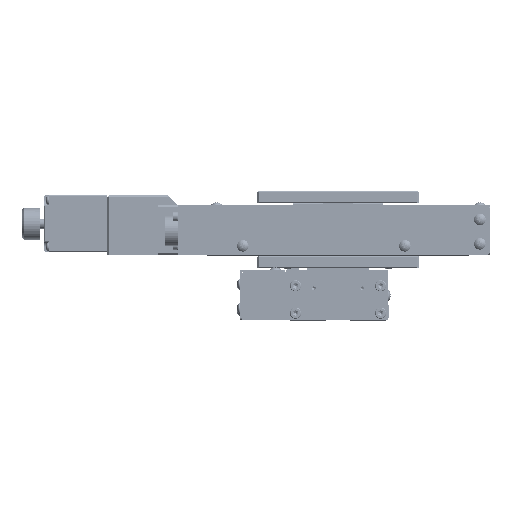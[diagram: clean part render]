
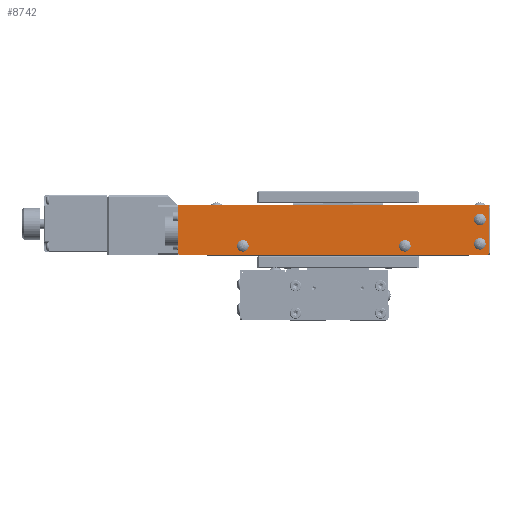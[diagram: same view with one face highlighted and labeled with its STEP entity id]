
A CAD part, front view. The second image highlights one B-rep face of the part: STEP entity #8742.
In plain terms, the highlighted planar face has unit normal (0, -1, 0).
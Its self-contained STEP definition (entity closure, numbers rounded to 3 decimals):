
#8742=ADVANCED_FACE('',(#50240,#50241,#50242,#50243,#50244),#50239,.T.);
#50239=PLANE('',#91188);
#50240=FACE_OUTER_BOUND('',#91189,.T.);
#50241=FACE_BOUND('',#91190,.T.);
#50242=FACE_BOUND('',#91191,.T.);
#50243=FACE_BOUND('',#91192,.T.);
#50244=FACE_BOUND('',#91193,.T.);
#91185=CARTESIAN_POINT('',(-154.,-48.5,-1.95));
#91186=DIRECTION('',(0.,-1.,0.));
#91187=DIRECTION('',(1.,0.,0.));
#91188=AXIS2_PLACEMENT_3D('',#91185,#91186,#91187);
#91189=EDGE_LOOP('',(#116800,#116801,#116802,#116803,#116804,#116805));
#91190=EDGE_LOOP('',(#116806,#116807));
#91191=EDGE_LOOP('',(#116808,#116809));
#91192=EDGE_LOOP('',(#116810,#116811));
#91193=EDGE_LOOP('',(#116812,#116813));
#116800=ORIENTED_EDGE('',*,*,#131998,.F.);
#116801=ORIENTED_EDGE('',*,*,#131988,.T.);
#116802=ORIENTED_EDGE('',*,*,#131999,.F.);
#116803=ORIENTED_EDGE('',*,*,#131992,.T.);
#116804=ORIENTED_EDGE('',*,*,#132000,.T.);
#116805=ORIENTED_EDGE('',*,*,#132001,.T.);
#116806=ORIENTED_EDGE('',*,*,#132002,.T.);
#116807=ORIENTED_EDGE('',*,*,#132003,.T.);
#116808=ORIENTED_EDGE('',*,*,#132004,.T.);
#116809=ORIENTED_EDGE('',*,*,#132005,.T.);
#116810=ORIENTED_EDGE('',*,*,#132006,.T.);
#116811=ORIENTED_EDGE('',*,*,#132007,.T.);
#116812=ORIENTED_EDGE('',*,*,#132008,.T.);
#116813=ORIENTED_EDGE('',*,*,#132009,.T.);
#131988=EDGE_CURVE('',#194143,#194136,#194144,.T.);
#131992=EDGE_CURVE('',#194171,#194164,#194172,.T.);
#131998=EDGE_CURVE('',#194143,#194212,#194213,.T.);
#131999=EDGE_CURVE('',#194171,#194136,#194219,.T.);
#132000=EDGE_CURVE('',#194164,#194225,#194226,.T.);
#132001=EDGE_CURVE('',#194225,#194212,#194232,.T.);
#132002=EDGE_CURVE('',#194238,#194239,#194240,.T.);
#132003=EDGE_CURVE('',#194239,#194238,#194246,.T.);
#132004=EDGE_CURVE('',#194252,#194253,#194254,.T.);
#132005=EDGE_CURVE('',#194253,#194252,#194260,.T.);
#132006=EDGE_CURVE('',#194266,#194267,#194268,.T.);
#132007=EDGE_CURVE('',#194267,#194266,#194274,.T.);
#132008=EDGE_CURVE('',#194280,#194281,#194282,.T.);
#132009=EDGE_CURVE('',#194281,#194280,#194288,.T.);
#194136=VERTEX_POINT('',#252347);
#194143=VERTEX_POINT('',#252351);
#194144=CIRCLE('',#252355,1.);
#194164=VERTEX_POINT('',#252365);
#194171=VERTEX_POINT('',#252369);
#194172=CIRCLE('',#252373,1.);
#194212=VERTEX_POINT('',#252395);
#194213=LINE('',#252396,#252397);
#194219=LINE('',#252399,#252400);
#194225=VERTEX_POINT('',#252402);
#194226=LINE('',#252403,#252404);
#194232=LINE('',#252406,#252407);
#194238=VERTEX_POINT('',#252409);
#194239=VERTEX_POINT('',#252410);
#194240=CIRCLE('',#252414,1.5);
#194246=CIRCLE('',#252418,1.5);
#194252=VERTEX_POINT('',#252419);
#194253=VERTEX_POINT('',#252420);
#194254=CIRCLE('',#252424,1.5);
#194260=CIRCLE('',#252428,1.5);
#194266=VERTEX_POINT('',#252429);
#194267=VERTEX_POINT('',#252430);
#194268=CIRCLE('',#252434,1.5);
#194274=CIRCLE('',#252438,1.5);
#194280=VERTEX_POINT('',#252439);
#194281=VERTEX_POINT('',#252440);
#194282=CIRCLE('',#252444,1.5);
#194288=CIRCLE('',#252448,1.5);
#252347=CARTESIAN_POINT('',(-143.,-48.5,0.5));
#252351=CARTESIAN_POINT('',(-144.,-48.5,1.5));
#252352=CARTESIAN_POINT('',(-143.,-48.5,1.5));
#252353=DIRECTION('',(0.,-1.,0.));
#252354=DIRECTION('',(1.,0.,0.));
#252355=AXIS2_PLACEMENT_3D('',#252352,#252353,#252354);
#252365=CARTESIAN_POINT('',(9.5,-48.5,1.5));
#252369=CARTESIAN_POINT('',(8.5,-48.5,0.5));
#252370=CARTESIAN_POINT('',(8.5,-48.5,1.5));
#252371=DIRECTION('',(0.,-1.,0.));
#252372=DIRECTION('',(0.,0.,1.));
#252373=AXIS2_PLACEMENT_3D('',#252370,#252371,#252372);
#252395=CARTESIAN_POINT('',(-144.,-48.5,25.));
#252396=CARTESIAN_POINT('',(-144.,-48.5,1.5));
#252397=VECTOR('',#252398,23.5);
#252398=DIRECTION('',(0.,0.,1.));
#252399=CARTESIAN_POINT('',(8.5,-48.5,0.5));
#252400=VECTOR('',#252401,151.5);
#252401=DIRECTION('',(-1.,0.,0.));
#252402=CARTESIAN_POINT('',(9.5,-48.5,25.));
#252403=CARTESIAN_POINT('',(9.5,-48.5,1.5));
#252404=VECTOR('',#252405,23.5);
#252405=DIRECTION('',(0.,0.,1.));
#252406=CARTESIAN_POINT('',(9.5,-48.5,25.));
#252407=VECTOR('',#252408,153.5);
#252408=DIRECTION('',(-1.,0.,0.));
#252409=CARTESIAN_POINT('',(3.5,-48.5,18.));
#252410=CARTESIAN_POINT('',(6.5,-48.5,18.));
#252411=CARTESIAN_POINT('',(5.,-48.5,18.));
#252412=DIRECTION('',(0.,1.,0.));
#252413=DIRECTION('',(-1.,0.,0.));
#252414=AXIS2_PLACEMENT_3D('',#252411,#252412,#252413);
#252415=CARTESIAN_POINT('',(5.,-48.5,18.));
#252416=DIRECTION('',(0.,1.,0.));
#252417=DIRECTION('',(1.,0.,0.));
#252418=AXIS2_PLACEMENT_3D('',#252415,#252416,#252417);
#252419=CARTESIAN_POINT('',(-32.,-48.5,6.5));
#252420=CARTESIAN_POINT('',(-32.,-48.5,3.5));
#252421=CARTESIAN_POINT('',(-32.,-48.5,5.));
#252422=DIRECTION('',(0.,1.,0.));
#252423=DIRECTION('',(0.,0.,1.));
#252424=AXIS2_PLACEMENT_3D('',#252421,#252422,#252423);
#252425=CARTESIAN_POINT('',(-32.,-48.5,5.));
#252426=DIRECTION('',(0.,1.,0.));
#252427=DIRECTION('',(0.,0.,-1.));
#252428=AXIS2_PLACEMENT_3D('',#252425,#252426,#252427);
#252429=CARTESIAN_POINT('',(5.,-48.5,7.5));
#252430=CARTESIAN_POINT('',(5.,-48.5,4.5));
#252431=CARTESIAN_POINT('',(5.,-48.5,6.));
#252432=DIRECTION('',(0.,1.,0.));
#252433=DIRECTION('',(0.,0.,1.));
#252434=AXIS2_PLACEMENT_3D('',#252431,#252432,#252433);
#252435=CARTESIAN_POINT('',(5.,-48.5,6.));
#252436=DIRECTION('',(0.,1.,0.));
#252437=DIRECTION('',(0.,0.,1.));
#252438=AXIS2_PLACEMENT_3D('',#252435,#252436,#252437);
#252439=CARTESIAN_POINT('',(-112.,-48.5,6.5));
#252440=CARTESIAN_POINT('',(-112.,-48.5,3.5));
#252441=CARTESIAN_POINT('',(-112.,-48.5,5.));
#252442=DIRECTION('',(0.,1.,0.));
#252443=DIRECTION('',(0.,0.,1.));
#252444=AXIS2_PLACEMENT_3D('',#252441,#252442,#252443);
#252445=CARTESIAN_POINT('',(-112.,-48.5,5.));
#252446=DIRECTION('',(0.,1.,0.));
#252447=DIRECTION('',(0.,0.,-1.));
#252448=AXIS2_PLACEMENT_3D('',#252445,#252446,#252447);
